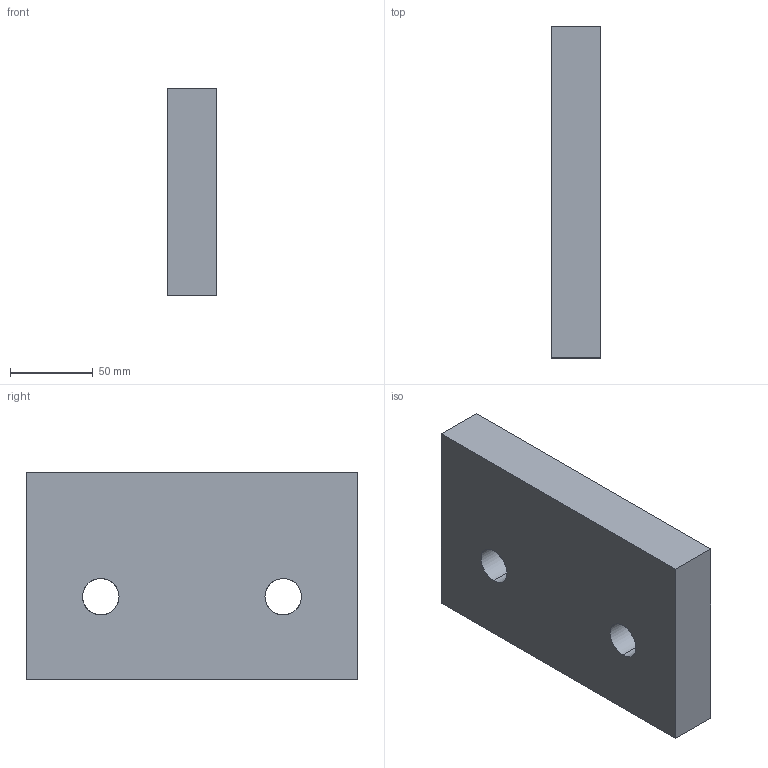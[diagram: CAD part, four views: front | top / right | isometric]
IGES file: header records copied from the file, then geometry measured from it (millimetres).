
Start section: START RECORD GO HERE.
Global section: file name: A612-125-200.igs; native system: DASSAULT SYSTEMES CATIA V5 R20 - www.3ds.com; preprocessor: CATIA Version 5 Release 20 ; author: Utente; organization: NB04-ASUS; date: 20200414.151418; units: millimetre
Bounding box: 30 x 200 x 125 mm (x, y, z)
Surface area: 72126.4 mm2 (no closed solid volume)
Topology: 0 solids, 0 shells, 10 faces, 48 edges, 48 vertices
Faces by surface type: extrusion 6, revolution 4
